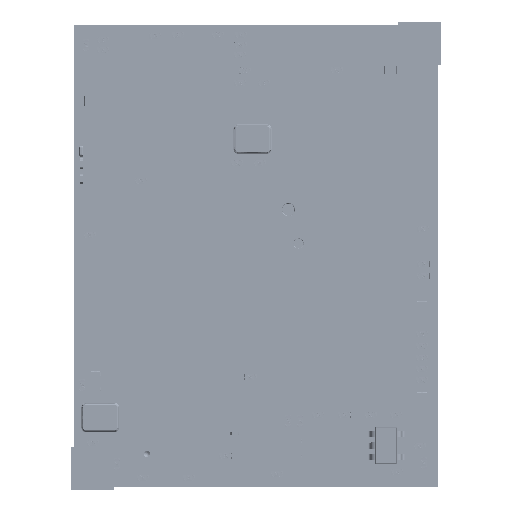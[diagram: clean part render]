
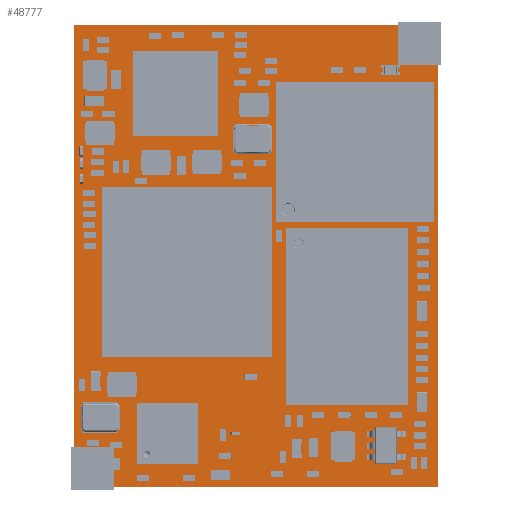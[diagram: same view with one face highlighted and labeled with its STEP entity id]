
A CAD part, top view. The second image highlights one B-rep face of the part: STEP entity #48777.
In plain terms, the highlighted planar face has unit normal (0, 0, 1).
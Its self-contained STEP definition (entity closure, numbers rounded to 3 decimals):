
#17609=CIRCLE($,#40246,0.762);
#17610=CIRCLE($,#40247,0.762);
#17613=CIRCLE($,#40252,0.762);
#17614=CIRCLE($,#40253,0.762);
#17617=CIRCLE($,#40258,0.762);
#17618=CIRCLE($,#40259,0.762);
#17621=CIRCLE($,#40264,0.762);
#17622=CIRCLE($,#40265,0.762);
#29764=FACE_OUTER_BOUND($,#34810,.F.);
#29770=FACE_OUTER_BOUND($,#34816,.T.);
#29774=FACE_OUTER_BOUND($,#34820,.T.);
#29778=FACE_OUTER_BOUND($,#34824,.T.);
#29782=FACE_OUTER_BOUND($,#34828,.T.);
#34810=EDGE_LOOP($,(#53815,#53816,#53817,#53818));
#34816=EDGE_LOOP($,(#53839,#53840));
#34820=EDGE_LOOP($,(#53851,#53852));
#34824=EDGE_LOOP($,(#53863,#53864));
#34828=EDGE_LOOP($,(#53875,#53876));
#40240=AXIS2_PLACEMENT_3D($,#129929,#111733,$);
#40246=AXIS2_PLACEMENT_3D($,#129941,#111733,$);
#40247=AXIS2_PLACEMENT_3D($,#129942,#111733,$);
#40252=AXIS2_PLACEMENT_3D($,#129953,#111733,$);
#40253=AXIS2_PLACEMENT_3D($,#129954,#111733,$);
#40258=AXIS2_PLACEMENT_3D($,#129965,#111733,$);
#40259=AXIS2_PLACEMENT_3D($,#129966,#111733,$);
#40264=AXIS2_PLACEMENT_3D($,#129977,#111733,$);
#40265=AXIS2_PLACEMENT_3D($,#129978,#111733,$);
#46271=PLANE($,#40240);
#48777=ADVANCED_FACE($,(#29764,#29770,#29774,#29778,#29782),#46271,.T.);
#53815=ORIENTED_EDGE($,*,*,#76592,.T.);
#53816=ORIENTED_EDGE($,*,*,#76593,.T.);
#53817=ORIENTED_EDGE($,*,*,#76594,.T.);
#53818=ORIENTED_EDGE($,*,*,#76595,.T.);
#53839=ORIENTED_EDGE($,*,*,#76605,.T.);
#53840=ORIENTED_EDGE($,*,*,#76606,.T.);
#53851=ORIENTED_EDGE($,*,*,#76612,.T.);
#53852=ORIENTED_EDGE($,*,*,#76613,.T.);
#53863=ORIENTED_EDGE($,*,*,#76619,.T.);
#53864=ORIENTED_EDGE($,*,*,#76620,.T.);
#53875=ORIENTED_EDGE($,*,*,#76626,.T.);
#53876=ORIENTED_EDGE($,*,*,#76627,.T.);
#76592=EDGE_CURVE($,#101459,#101460,#94724,.T.);
#76593=EDGE_CURVE($,#101460,#101461,#94725,.T.);
#76594=EDGE_CURVE($,#101461,#101462,#94726,.T.);
#76595=EDGE_CURVE($,#101462,#101459,#94727,.T.);
#76605=EDGE_CURVE($,#101469,#101470,#17609,.F.);
#76606=EDGE_CURVE($,#101470,#101469,#17610,.F.);
#76612=EDGE_CURVE($,#101475,#101476,#17613,.F.);
#76613=EDGE_CURVE($,#101476,#101475,#17614,.F.);
#76619=EDGE_CURVE($,#101481,#101482,#17617,.F.);
#76620=EDGE_CURVE($,#101482,#101481,#17618,.F.);
#76626=EDGE_CURVE($,#101487,#101488,#17621,.F.);
#76627=EDGE_CURVE($,#101488,#101487,#17622,.F.);
#87989=VECTOR($,#111736,38.);
#87990=VECTOR($,#111737,30.);
#87991=VECTOR($,#111738,38.);
#87992=VECTOR($,#111739,30.);
#94724=LINE($,#129928,#87989);
#94725=LINE($,#129929,#87990);
#94726=LINE($,#129930,#87991);
#94727=LINE($,#129931,#87992);
#101459=VERTEX_POINT($,#129928);
#101460=VERTEX_POINT($,#129929);
#101461=VERTEX_POINT($,#129930);
#101462=VERTEX_POINT($,#129931);
#101469=VERTEX_POINT($,#129938);
#101470=VERTEX_POINT($,#129939);
#101475=VERTEX_POINT($,#129950);
#101476=VERTEX_POINT($,#129951);
#101481=VERTEX_POINT($,#129962);
#101482=VERTEX_POINT($,#129963);
#101487=VERTEX_POINT($,#129974);
#101488=VERTEX_POINT($,#129975);
#111733=DIRECTION($,(0.,0.,1.));
#111736=DIRECTION($,(0.,-1.,0.));
#111737=DIRECTION($,(-1.,0.,0.));
#111738=DIRECTION($,(0.,1.,0.));
#111739=DIRECTION($,(1.,0.,0.));
#129928=CARTESIAN_POINT('',(30.,38.,0.));
#129929=CARTESIAN_POINT('',(30.,0.,0.));
#129930=CARTESIAN_POINT('',(0.,0.,0.));
#129931=CARTESIAN_POINT('',(0.,38.,0.));
#129938=CARTESIAN_POINT('',(2.264,1.5,0.));
#129939=CARTESIAN_POINT('',(0.74,1.5,0.));
#129941=CARTESIAN_POINT('',(1.502,1.5,0.));
#129942=CARTESIAN_POINT('',(1.502,1.5,0.));
#129950=CARTESIAN_POINT('',(29.264,36.5,0.));
#129951=CARTESIAN_POINT('',(27.74,36.5,0.));
#129953=CARTESIAN_POINT('',(28.502,36.5,0.));
#129954=CARTESIAN_POINT('',(28.502,36.5,0.));
#129962=CARTESIAN_POINT('',(2.264,1.5,0.));
#129963=CARTESIAN_POINT('',(0.74,1.5,0.));
#129965=CARTESIAN_POINT('',(1.502,1.5,0.));
#129966=CARTESIAN_POINT('',(1.502,1.5,0.));
#129974=CARTESIAN_POINT('',(29.264,36.5,0.));
#129975=CARTESIAN_POINT('',(27.74,36.5,0.));
#129977=CARTESIAN_POINT('',(28.502,36.5,0.));
#129978=CARTESIAN_POINT('',(28.502,36.5,0.));
